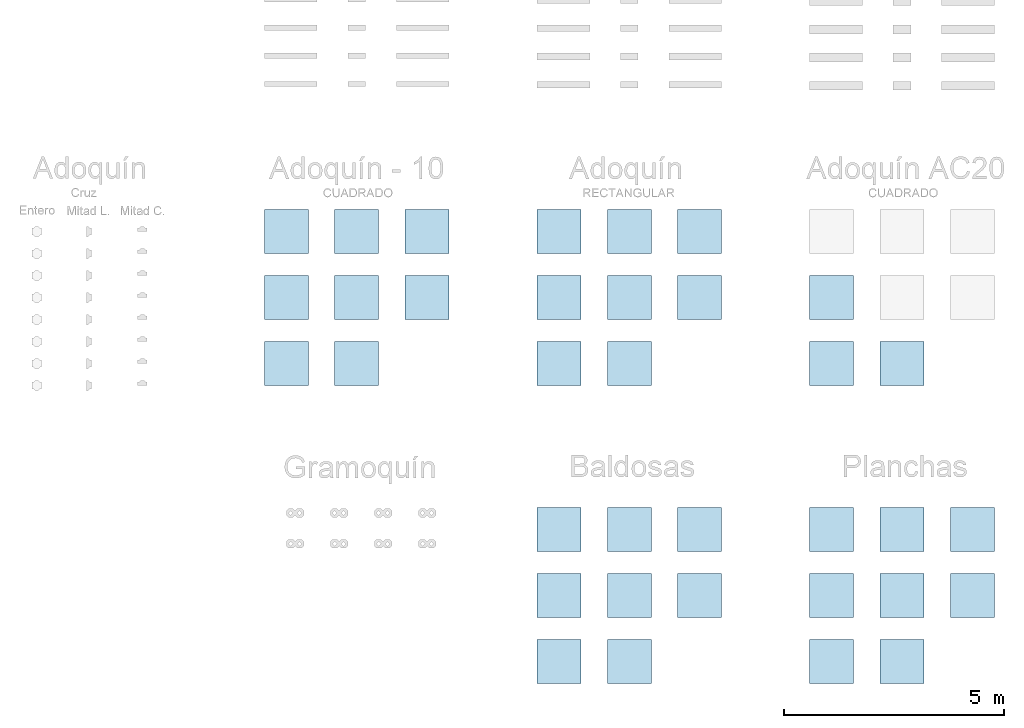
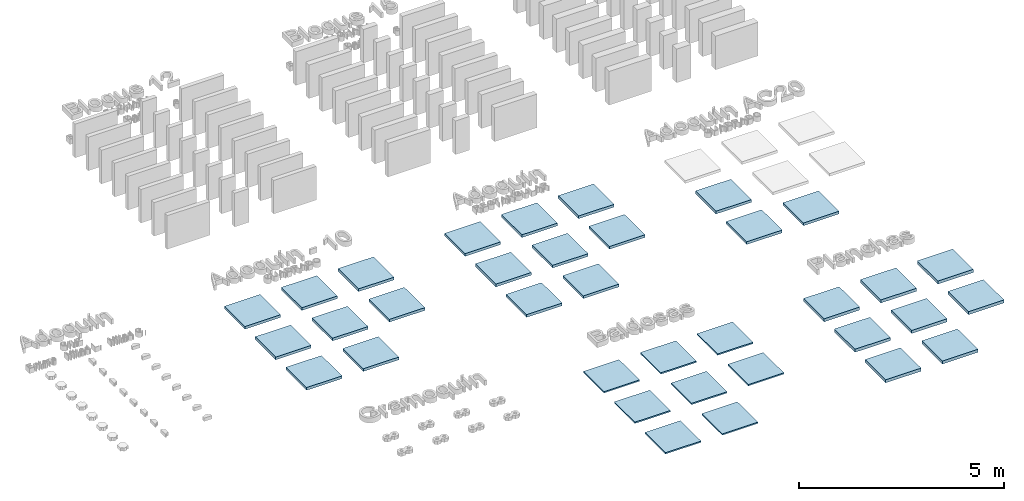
# One storey, part 1 of 19: 35 slabs.
"""IFC2X3 building model written with IfcOpenShell, lengths in metres."""

from ifc_helpers import new_model, entity, si_unit, converted_unit, derived_unit, direction, frame, frame_2d, origin, place, context, subcontext, project, spatial, rectangle, extrude, material, layer, layer_set, layer_usage, type_object, element, save


model = new_model("IFC2X3")

# Units and contexts
model_context = context("Model", 3, precision=1e-05, world=origin(), true_north=direction((6.12303176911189e-17, 1.0)))
body_context = subcontext(model_context, "Body", "Model", "MODEL_VIEW")
ifc_project = project(units=[si_unit("LENGTHUNIT", "METRE"), si_unit("AREAUNIT", "SQUARE_METRE"), si_unit("VOLUMEUNIT", "CUBIC_METRE"), converted_unit("PLANEANGLEUNIT", "DEGREE", entity("IfcRatioMeasure", 0.0174532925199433), si_unit("PLANEANGLEUNIT", "RADIAN"), dimensions=[0, 0, 0, 0, 0, 0, 0]), si_unit("MASSUNIT", "GRAM", prefix="KILO"), derived_unit("MASSDENSITYUNIT", [(si_unit("MASSUNIT", "GRAM", prefix="KILO"), 1), (si_unit("LENGTHUNIT", "METRE"), -3)]), derived_unit("MOMENTOFINERTIAUNIT", [(si_unit("LENGTHUNIT", "METRE"), 4)]), si_unit("TIMEUNIT", "SECOND"), si_unit("FREQUENCYUNIT", "HERTZ"), si_unit("THERMODYNAMICTEMPERATUREUNIT", "DEGREE_CELSIUS"), derived_unit("THERMALTRANSMITTANCEUNIT", [(si_unit("MASSUNIT", "GRAM", prefix="KILO"), 1), (si_unit("THERMODYNAMICTEMPERATUREUNIT", "KELVIN"), -1), (si_unit("TIMEUNIT", "SECOND"), -3)]), derived_unit("VOLUMETRICFLOWRATEUNIT", [(si_unit("LENGTHUNIT", "METRE"), 3), (si_unit("TIMEUNIT", "SECOND"), -1)]), si_unit("ELECTRICCURRENTUNIT", "AMPERE"), si_unit("ELECTRICVOLTAGEUNIT", "VOLT"), si_unit("POWERUNIT", "WATT"), si_unit("FORCEUNIT", "NEWTON", prefix="KILO"), si_unit("ILLUMINANCEUNIT", "LUX"), si_unit("LUMINOUSFLUXUNIT", "LUMEN"), si_unit("LUMINOUSINTENSITYUNIT", "CANDELA"), derived_unit("USERDEFINED", [(si_unit("MASSUNIT", "GRAM", prefix="KILO"), -1), (si_unit("LENGTHUNIT", "METRE"), -2), (si_unit("TIMEUNIT", "SECOND"), 3), (si_unit("LUMINOUSFLUXUNIT", "LUMEN"), 1)]), derived_unit("LINEARVELOCITYUNIT", [(si_unit("LENGTHUNIT", "METRE"), 1), (si_unit("TIMEUNIT", "SECOND"), -1)]), si_unit("PRESSUREUNIT", "PASCAL"), derived_unit("USERDEFINED", [(si_unit("LENGTHUNIT", "METRE"), -2), (si_unit("MASSUNIT", "GRAM", prefix="KILO"), 1), (si_unit("TIMEUNIT", "SECOND"), -2)]), derived_unit("LINEARFORCEUNIT", [(si_unit("MASSUNIT", "GRAM", prefix="KILO"), 1), (si_unit("LENGTHUNIT", "METRE"), 1), (si_unit("TIMEUNIT", "SECOND"), -2), (si_unit("LENGTHUNIT", "METRE"), -1)]), derived_unit("PLANARFORCEUNIT", [(si_unit("MASSUNIT", "GRAM", prefix="KILO"), 1), (si_unit("LENGTHUNIT", "METRE"), 1), (si_unit("TIMEUNIT", "SECOND"), -2), (si_unit("LENGTHUNIT", "METRE"), -2)])], contexts=[model_context])

# Site, building, storey
site_placement = place(None, origin())
site = spatial("IfcSite", under=ifc_project, at=site_placement, Name="Default", CompositionType="ELEMENT")
building_placement = place(site_placement, origin())
building = spatial("IfcBuilding", under=site, at=building_placement, CompositionType="ELEMENT")
storey_placement = place(building_placement, origin())
storey = spatial("IfcBuildingStorey", under=building, at=storey_placement, Name="Nivel 1", CompositionType="ELEMENT", Elevation=0.0)

# Slabs
ifc_material_1 = material(Name="Adoquín (10) - Natural")
ifc_layer_1 = layer(ifc_material_1, 0.08)
ifc_layer_set_1 = layer_set([ifc_layer_1], Name="Suelo:Adoquín 10 - Natural")
ifc_layer_usage_1 = layer_usage(ifc_layer_set_1, "AXIS3", "POSITIVE", 0.0)
slab_type_1 = type_object("IfcSlabType", Name="Suelo:Adoquín 10 - Natural", PredefinedType="FLOOR", material=ifc_layer_set_1)
slab_1_placement = place(storey_placement, origin())
element("IfcSlab", 1, at=slab_1_placement, inside=storey, type_object=slab_type_1, material=ifc_layer_usage_1, Name="Suelo:Adoquín 10 - Natural", ObjectType="Suelo:Adoquín 10 - Natural", PredefinedType="FLOOR", context=body_context, shape_type="SweptSolid", body=[
    extrude(rectangle(XDim=1.0, YDim=1.00000000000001, at=frame_2d((5.55111512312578e-16, -2.16493489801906e-15), x_axis=(1.0, 0.0))), frame((-4.94851232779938, 1.71404309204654, 0.0), z_axis=(0.0, 0.0, -1.0), x_axis=(0.0, 1.0, 0.0)), (0.0, 0.0, 1.0), 0.08),
])
ifc_material_2 = material(Name="Adoquín (10) - Rojo")
ifc_layer_2 = layer(ifc_material_2, 0.08)
ifc_layer_set_2 = layer_set([ifc_layer_2], Name="Suelo:Adoquín 10 - Rojo")
ifc_layer_usage_2 = layer_usage(ifc_layer_set_2, "AXIS3", "POSITIVE", 0.0)
slab_type_2 = type_object("IfcSlabType", Name="Suelo:Adoquín 10 - Rojo", PredefinedType="FLOOR", material=ifc_layer_set_2)
slab_2_placement = place(storey_placement, origin())
element("IfcSlab", 2, at=slab_2_placement, inside=storey, type_object=slab_type_2, material=ifc_layer_usage_2, Name="Suelo:Adoquín 10 - Rojo", ObjectType="Suelo:Adoquín 10 - Rojo", PredefinedType="FLOOR", context=body_context, shape_type="SweptSolid", body=[
    extrude(rectangle(XDim=0.999999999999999, YDim=1.00000000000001, at=frame_2d((5.55111512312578e-16, -2.16493489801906e-15), x_axis=(1.0, 0.0))), frame((-1.74851232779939, 1.71404309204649, 0.0), z_axis=(0.0, 0.0, -1.0), x_axis=(0.0, 1.0, 0.0)), (0.0, 0.0, 1.0), 0.08),
])
ifc_material_3 = material(Name="Adoquín (10) - Rosado")
ifc_layer_3 = layer(ifc_material_3, 0.08)
ifc_layer_set_3 = layer_set([ifc_layer_3], Name="Suelo:Adoquín 10 - Rosado")
ifc_layer_usage_3 = layer_usage(ifc_layer_set_3, "AXIS3", "POSITIVE", 0.0)
slab_type_3 = type_object("IfcSlabType", Name="Suelo:Adoquín 10 - Rosado", PredefinedType="FLOOR", material=ifc_layer_set_3)
slab_3_placement = place(storey_placement, origin())
element("IfcSlab", 3, at=slab_3_placement, inside=storey, type_object=slab_type_3, material=ifc_layer_usage_3, Name="Suelo:Adoquín 10 - Rosado", ObjectType="Suelo:Adoquín 10 - Rosado", PredefinedType="FLOOR", context=body_context, shape_type="SweptSolid", body=[
    extrude(rectangle(XDim=0.999999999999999, YDim=1.00000000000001, at=frame_2d((5.55111512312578e-16, -2.16493489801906e-15), x_axis=(1.0, 0.0))), frame((-3.3485123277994, 1.71404309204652, 0.0), z_axis=(0.0, 0.0, -1.0), x_axis=(0.0, 1.0, 0.0)), (0.0, 0.0, 1.0), 0.08),
])
ifc_material_4 = material(Name="Adoquín (10) - Adobe")
ifc_layer_4 = layer(ifc_material_4, 0.08)
ifc_layer_set_4 = layer_set([ifc_layer_4], Name="Suelo:Adoquín 10 - Adobe")
ifc_layer_usage_4 = layer_usage(ifc_layer_set_4, "AXIS3", "POSITIVE", 0.0)
slab_type_4 = type_object("IfcSlabType", Name="Suelo:Adoquín 10 - Adobe", PredefinedType="FLOOR", material=ifc_layer_set_4)
slab_4_placement = place(storey_placement, origin())
element("IfcSlab", 4, at=slab_4_placement, inside=storey, type_object=slab_type_4, material=ifc_layer_usage_4, Name="Suelo:Adoquín 10 - Adobe", ObjectType="Suelo:Adoquín 10 - Adobe", PredefinedType="FLOOR", context=body_context, shape_type="SweptSolid", body=[
    extrude(rectangle(XDim=1.0, YDim=1.00000000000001, at=frame_2d((5.55111512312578e-16, -2.16493489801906e-15), x_axis=(1.0, 0.0))), frame((-4.9485123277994, 0.214043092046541, 0.0), z_axis=(0.0, 0.0, -1.0), x_axis=(0.0, 1.0, 0.0)), (0.0, 0.0, 1.0), 0.08),
])
ifc_material_5 = material(Name="Adoquín (10) - Gris")
ifc_layer_5 = layer(ifc_material_5, 0.08)
ifc_layer_set_5 = layer_set([ifc_layer_5], Name="Suelo:Adoquín 10 - Gris")
ifc_layer_usage_5 = layer_usage(ifc_layer_set_5, "AXIS3", "POSITIVE", 0.0)
slab_type_5 = type_object("IfcSlabType", Name="Suelo:Adoquín 10 - Gris", PredefinedType="FLOOR", material=ifc_layer_set_5)
slab_5_placement = place(storey_placement, origin())
element("IfcSlab", 5, at=slab_5_placement, inside=storey, type_object=slab_type_5, material=ifc_layer_usage_5, Name="Suelo:Adoquín 10 - Gris", ObjectType="Suelo:Adoquín 10 - Gris", PredefinedType="FLOOR", context=body_context, shape_type="SweptSolid", body=[
    extrude(rectangle(XDim=0.999999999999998, YDim=1.00000000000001, at=frame_2d((5.55111512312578e-16, -2.16493489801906e-15), x_axis=(1.0, 0.0))), frame((-1.74851232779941, 0.21404309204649, 0.0), z_axis=(0.0, 0.0, -1.0), x_axis=(0.0, 1.0, 0.0)), (0.0, 0.0, 1.0), 0.08),
])
ifc_material_6 = material(Name="Adoquín (10) - Amarillo")
ifc_layer_6 = layer(ifc_material_6, 0.08)
ifc_layer_set_6 = layer_set([ifc_layer_6], Name="Suelo:Adoquín 10 - Amarillo")
ifc_layer_usage_6 = layer_usage(ifc_layer_set_6, "AXIS3", "POSITIVE", 0.0)
slab_type_6 = type_object("IfcSlabType", Name="Suelo:Adoquín 10 - Amarillo", PredefinedType="FLOOR", material=ifc_layer_set_6)
slab_6_placement = place(storey_placement, origin())
element("IfcSlab", 6, at=slab_6_placement, inside=storey, type_object=slab_type_6, material=ifc_layer_usage_6, Name="Suelo:Adoquín 10 - Amarillo", ObjectType="Suelo:Adoquín 10 - Amarillo", PredefinedType="FLOOR", context=body_context, shape_type="SweptSolid", body=[
    extrude(rectangle(XDim=0.999999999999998, YDim=1.00000000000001, at=frame_2d((5.55111512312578e-16, -2.16493489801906e-15), x_axis=(1.0, 0.0))), frame((-3.34851232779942, 0.214043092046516, 0.0), z_axis=(0.0, 0.0, -1.0), x_axis=(0.0, 1.0, 0.0)), (0.0, 0.0, 1.0), 0.08),
])
ifc_material_7 = material(Name="Adoquín (10) - Chocolate")
ifc_layer_7 = layer(ifc_material_7, 0.08)
ifc_layer_set_7 = layer_set([ifc_layer_7], Name="Suelo:Adoquín 10 - Chocolate")
ifc_layer_usage_7 = layer_usage(ifc_layer_set_7, "AXIS3", "POSITIVE", 0.0)
slab_type_7 = type_object("IfcSlabType", Name="Suelo:Adoquín 10 - Chocolate", PredefinedType="FLOOR", material=ifc_layer_set_7)
slab_7_placement = place(storey_placement, origin())
element("IfcSlab", 7, at=slab_7_placement, inside=storey, type_object=slab_type_7, material=ifc_layer_usage_7, Name="Suelo:Adoquín 10 - Chocolate", ObjectType="Suelo:Adoquín 10 - Chocolate", PredefinedType="FLOOR", context=body_context, shape_type="SweptSolid", body=[
    extrude(rectangle(XDim=1.0, YDim=1.00000000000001, at=frame_2d((5.55111512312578e-16, -2.16493489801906e-15), x_axis=(1.0, 0.0))), frame((-4.94851232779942, -1.28595690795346, 0.0), z_axis=(0.0, 0.0, -1.0), x_axis=(0.0, 1.0, 0.0)), (0.0, 0.0, 1.0), 0.08),
])
ifc_material_8 = material(Name="Adoquín (10) - Negro")
ifc_layer_8 = layer(ifc_material_8, 0.08)
ifc_layer_set_8 = layer_set([ifc_layer_8], Name="Suelo:Adoquín 10 - Negro")
ifc_layer_usage_8 = layer_usage(ifc_layer_set_8, "AXIS3", "POSITIVE", 0.0)
slab_type_8 = type_object("IfcSlabType", Name="Suelo:Adoquín 10 - Negro", PredefinedType="FLOOR", material=ifc_layer_set_8)
slab_8_placement = place(storey_placement, origin())
element("IfcSlab", 8, at=slab_8_placement, inside=storey, type_object=slab_type_8, material=ifc_layer_usage_8, Name="Suelo:Adoquín 10 - Negro", ObjectType="Suelo:Adoquín 10 - Negro", PredefinedType="FLOOR", context=body_context, shape_type="SweptSolid", body=[
    extrude(rectangle(XDim=0.999999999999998, YDim=1.00000000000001, at=frame_2d((5.55111512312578e-16, -2.16493489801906e-15), x_axis=(1.0, 0.0))), frame((-3.34851232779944, -1.28595690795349, 0.0), z_axis=(0.0, 0.0, -1.0), x_axis=(0.0, 1.0, 0.0)), (0.0, 0.0, 1.0), 0.08),
])
ifc_material_9 = material(Name="Adoquín (Rectangular) - Natural")
ifc_layer_9 = layer(ifc_material_9, 0.08)
ifc_layer_set_9 = layer_set([ifc_layer_9], Name="Suelo:Adoquín (Rectangular) - Natural")
ifc_layer_usage_9 = layer_usage(ifc_layer_set_9, "AXIS3", "POSITIVE", 0.0)
slab_type_9 = type_object("IfcSlabType", Name="Suelo:Adoquín (Rectangular) - Natural", PredefinedType="FLOOR", material=ifc_layer_set_9)
slab_9_placement = place(storey_placement, origin())
element("IfcSlab", 9, at=slab_9_placement, inside=storey, type_object=slab_type_9, material=ifc_layer_usage_9, Name="Suelo:Adoquín (Rectangular) - Natural", ObjectType="Suelo:Adoquín (Rectangular) - Natural", PredefinedType="FLOOR", context=body_context, shape_type="SweptSolid", body=[
    extrude(rectangle(XDim=1.0, YDim=1.00000000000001, at=frame_2d((5.55111512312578e-16, -2.16493489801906e-15), x_axis=(1.0, 0.0))), frame((1.25148767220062, 1.71404309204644, 0.0), z_axis=(0.0, 0.0, -1.0), x_axis=(0.0, 1.0, 0.0)), (0.0, 0.0, 1.0), 0.08),
])
ifc_material_10 = material(Name="Adoquín (Rectangular) - Rosado")
ifc_layer_10 = layer(ifc_material_10, 0.08)
ifc_layer_set_10 = layer_set([ifc_layer_10], Name="Suelo:Adoquín (Rectangular) - Rosado")
ifc_layer_usage_10 = layer_usage(ifc_layer_set_10, "AXIS3", "POSITIVE", 0.0)
slab_type_10 = type_object("IfcSlabType", Name="Suelo:Adoquín (Rectangular) - Rosado", PredefinedType="FLOOR", material=ifc_layer_set_10)
slab_10_placement = place(storey_placement, origin())
element("IfcSlab", 10, at=slab_10_placement, inside=storey, type_object=slab_type_10, material=ifc_layer_usage_10, Name="Suelo:Adoquín (Rectangular) - Rosado", ObjectType="Suelo:Adoquín (Rectangular) - Rosado", PredefinedType="FLOOR", context=body_context, shape_type="SweptSolid", body=[
    extrude(rectangle(XDim=1.0, YDim=1.00000000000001, at=frame_2d((5.55111512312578e-16, -2.16493489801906e-15), x_axis=(1.0, 0.0))), frame((2.8514876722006, 1.71404309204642, 0.0), z_axis=(0.0, 0.0, -1.0), x_axis=(0.0, 1.0, 0.0)), (0.0, 0.0, 1.0), 0.08),
])
ifc_material_11 = material(Name="Adoquín (Rectangular) - Rojo")
ifc_layer_11 = layer(ifc_material_11, 0.08)
ifc_layer_set_11 = layer_set([ifc_layer_11], Name="Suelo:Adoquín (Rectangular) - Rojo")
ifc_layer_usage_11 = layer_usage(ifc_layer_set_11, "AXIS3", "POSITIVE", 0.0)
slab_type_11 = type_object("IfcSlabType", Name="Suelo:Adoquín (Rectangular) - Rojo", PredefinedType="FLOOR", material=ifc_layer_set_11)
slab_11_placement = place(storey_placement, origin())
element("IfcSlab", 11, at=slab_11_placement, inside=storey, type_object=slab_type_11, material=ifc_layer_usage_11, Name="Suelo:Adoquín (Rectangular) - Rojo", ObjectType="Suelo:Adoquín (Rectangular) - Rojo", PredefinedType="FLOOR", context=body_context, shape_type="SweptSolid", body=[
    extrude(rectangle(XDim=1.0, YDim=1.00000000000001, at=frame_2d((5.55111512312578e-16, -2.16493489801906e-15), x_axis=(1.0, 0.0))), frame((4.45148767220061, 1.71404309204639, 0.0), z_axis=(0.0, 0.0, -1.0), x_axis=(0.0, 1.0, 0.0)), (0.0, 0.0, 1.0), 0.08),
])
ifc_material_12 = material(Name="Adoquín (Rectangular) - Adobe")
ifc_layer_12 = layer(ifc_material_12, 0.08)
ifc_layer_set_12 = layer_set([ifc_layer_12], Name="Suelo:Adoquín (Rectangular) - Adobe")
ifc_layer_usage_12 = layer_usage(ifc_layer_set_12, "AXIS3", "POSITIVE", 0.0)
slab_type_12 = type_object("IfcSlabType", Name="Suelo:Adoquín (Rectangular) - Adobe", PredefinedType="FLOOR", material=ifc_layer_set_12)
slab_12_placement = place(storey_placement, origin())
element("IfcSlab", 12, at=slab_12_placement, inside=storey, type_object=slab_type_12, material=ifc_layer_usage_12, Name="Suelo:Adoquín (Rectangular) - Adobe", ObjectType="Suelo:Adoquín (Rectangular) - Adobe", PredefinedType="FLOOR", context=body_context, shape_type="SweptSolid", body=[
    extrude(rectangle(XDim=1.0, YDim=1.00000000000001, at=frame_2d((5.55111512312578e-16, -2.16493489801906e-15), x_axis=(1.0, 0.0))), frame((1.2514876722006, 0.214043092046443, 0.0), z_axis=(0.0, 0.0, -1.0), x_axis=(0.0, 1.0, 0.0)), (0.0, 0.0, 1.0), 0.08),
])
ifc_material_13 = material(Name="Adoquín (Rectangular) - Amarillo")
ifc_layer_13 = layer(ifc_material_13, 0.08)
ifc_layer_set_13 = layer_set([ifc_layer_13], Name="Suelo:Adoquín (Rectangular) - Amarillo")
ifc_layer_usage_13 = layer_usage(ifc_layer_set_13, "AXIS3", "POSITIVE", 0.0)
slab_type_13 = type_object("IfcSlabType", Name="Suelo:Adoquín (Rectangular) - Amarillo", PredefinedType="FLOOR", material=ifc_layer_set_13)
slab_13_placement = place(storey_placement, origin())
element("IfcSlab", 13, at=slab_13_placement, inside=storey, type_object=slab_type_13, material=ifc_layer_usage_13, Name="Suelo:Adoquín (Rectangular) - Amarillo", ObjectType="Suelo:Adoquín (Rectangular) - Amarillo", PredefinedType="FLOOR", context=body_context, shape_type="SweptSolid", body=[
    extrude(rectangle(XDim=1.0, YDim=1.00000000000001, at=frame_2d((5.55111512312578e-16, -2.16493489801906e-15), x_axis=(1.0, 0.0))), frame((2.85148767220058, 0.214043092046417, 0.0), z_axis=(0.0, 0.0, -1.0), x_axis=(0.0, 1.0, 0.0)), (0.0, 0.0, 1.0), 0.08),
])
ifc_material_14 = material(Name="Adoquín (Rectangular) - Gris")
ifc_layer_14 = layer(ifc_material_14, 0.08)
ifc_layer_set_14 = layer_set([ifc_layer_14], Name="Suelo:Adoquín (Rectangular) - Gris")
ifc_layer_usage_14 = layer_usage(ifc_layer_set_14, "AXIS3", "POSITIVE", 0.0)
slab_type_14 = type_object("IfcSlabType", Name="Suelo:Adoquín (Rectangular) - Gris", PredefinedType="FLOOR", material=ifc_layer_set_14)
slab_14_placement = place(storey_placement, origin())
element("IfcSlab", 14, at=slab_14_placement, inside=storey, type_object=slab_type_14, material=ifc_layer_usage_14, Name="Suelo:Adoquín (Rectangular) - Gris", ObjectType="Suelo:Adoquín (Rectangular) - Gris", PredefinedType="FLOOR", context=body_context, shape_type="SweptSolid", body=[
    extrude(rectangle(XDim=1.0, YDim=1.00000000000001, at=frame_2d((5.55111512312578e-16, -2.16493489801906e-15), x_axis=(1.0, 0.0))), frame((4.45148767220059, 0.214043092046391, 0.0), z_axis=(0.0, 0.0, -1.0), x_axis=(0.0, 1.0, 0.0)), (0.0, 0.0, 1.0), 0.08),
])
ifc_material_15 = material(Name="Adoquín (Rectangular) - Chocolate")
ifc_layer_15 = layer(ifc_material_15, 0.08)
ifc_layer_set_15 = layer_set([ifc_layer_15], Name="Suelo:Adoquín (Rectangular) - Chocolate")
ifc_layer_usage_15 = layer_usage(ifc_layer_set_15, "AXIS3", "POSITIVE", 0.0)
slab_type_15 = type_object("IfcSlabType", Name="Suelo:Adoquín (Rectangular) - Chocolate", PredefinedType="FLOOR", material=ifc_layer_set_15)
slab_15_placement = place(storey_placement, origin())
element("IfcSlab", 15, at=slab_15_placement, inside=storey, type_object=slab_type_15, material=ifc_layer_usage_15, Name="Suelo:Adoquín (Rectangular) - Chocolate", ObjectType="Suelo:Adoquín (Rectangular) - Chocolate", PredefinedType="FLOOR", context=body_context, shape_type="SweptSolid", body=[
    extrude(rectangle(XDim=1.0, YDim=1.00000000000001, at=frame_2d((5.55111512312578e-16, -2.16493489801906e-15), x_axis=(1.0, 0.0))), frame((1.25148767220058, -1.28595690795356, 0.0), z_axis=(0.0, 0.0, -1.0), x_axis=(0.0, 1.0, 0.0)), (0.0, 0.0, 1.0), 0.08),
])
ifc_material_16 = material(Name="Adoquín (Rectangular) - Negro")
ifc_layer_16 = layer(ifc_material_16, 0.08)
ifc_layer_set_16 = layer_set([ifc_layer_16], Name="Suelo:Adoquín (Rectangular) - Negro")
ifc_layer_usage_16 = layer_usage(ifc_layer_set_16, "AXIS3", "POSITIVE", 0.0)
slab_type_16 = type_object("IfcSlabType", Name="Suelo:Adoquín (Rectangular) - Negro", PredefinedType="FLOOR", material=ifc_layer_set_16)
slab_16_placement = place(storey_placement, origin())
element("IfcSlab", 16, at=slab_16_placement, inside=storey, type_object=slab_type_16, material=ifc_layer_usage_16, Name="Suelo:Adoquín (Rectangular) - Negro", ObjectType="Suelo:Adoquín (Rectangular) - Negro", PredefinedType="FLOOR", context=body_context, shape_type="SweptSolid", body=[
    extrude(rectangle(XDim=1.0, YDim=1.00000000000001, at=frame_2d((5.55111512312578e-16, -2.16493489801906e-15), x_axis=(1.0, 0.0))), frame((2.85148767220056, -1.28595690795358, 0.0), z_axis=(0.0, 0.0, -1.0), x_axis=(0.0, 1.0, 0.0)), (0.0, 0.0, 1.0), 0.08),
])
ifc_material_17 = material(Name="Adoquín AC20 - Adobe")
ifc_layer_17 = layer(ifc_material_17, 0.08)
ifc_layer_set_17 = layer_set([ifc_layer_17], Name="Suelo:Adoquín AC20 - Adobe")
ifc_layer_usage_17 = layer_usage(ifc_layer_set_17, "AXIS3", "POSITIVE", 0.0)
slab_type_17 = type_object("IfcSlabType", Name="Suelo:Adoquín AC20 - Adobe", PredefinedType="FLOOR", material=ifc_layer_set_17)
slab_17_placement = place(storey_placement, origin())
element("IfcSlab", 17, at=slab_17_placement, inside=storey, type_object=slab_type_17, material=ifc_layer_usage_17, Name="Suelo:Adoquín AC20 - Adobe", ObjectType="Suelo:Adoquín AC20 - Adobe", PredefinedType="FLOOR", context=body_context, shape_type="SweptSolid", body=[
    extrude(rectangle(XDim=1.0, YDim=1.00000000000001, at=frame_2d((5.55111512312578e-16, -2.16493489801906e-15), x_axis=(1.0, 0.0))), frame((7.4514876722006, 0.214043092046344, 0.0), z_axis=(0.0, 0.0, -1.0), x_axis=(0.0, 1.0, 0.0)), (0.0, 0.0, 1.0), 0.08),
])
ifc_material_18 = material(Name="Adoquín AC20 - Chocolate")
ifc_layer_18 = layer(ifc_material_18, 0.08)
ifc_layer_set_18 = layer_set([ifc_layer_18], Name="Suelo:Adoquín AC20 - Chocolate")
ifc_layer_usage_18 = layer_usage(ifc_layer_set_18, "AXIS3", "POSITIVE", 0.0)
slab_type_18 = type_object("IfcSlabType", Name="Suelo:Adoquín AC20 - Chocolate", PredefinedType="FLOOR", material=ifc_layer_set_18)
slab_18_placement = place(storey_placement, origin())
element("IfcSlab", 18, at=slab_18_placement, inside=storey, type_object=slab_type_18, material=ifc_layer_usage_18, Name="Suelo:Adoquín AC20 - Chocolate", ObjectType="Suelo:Adoquín AC20 - Chocolate", PredefinedType="FLOOR", context=body_context, shape_type="SweptSolid", body=[
    extrude(rectangle(XDim=1.0, YDim=1.00000000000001, at=frame_2d((5.55111512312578e-16, -2.16493489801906e-15), x_axis=(1.0, 0.0))), frame((7.45148767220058, -1.28595690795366, 0.0), z_axis=(0.0, 0.0, -1.0), x_axis=(0.0, 1.0, 0.0)), (0.0, 0.0, 1.0), 0.08),
])
ifc_material_19 = material(Name="Adoquín AC20 - Negro")
ifc_layer_19 = layer(ifc_material_19, 0.08)
ifc_layer_set_19 = layer_set([ifc_layer_19], Name="Suelo:Adoquín AC20 - Negro")
ifc_layer_usage_19 = layer_usage(ifc_layer_set_19, "AXIS3", "POSITIVE", 0.0)
slab_type_19 = type_object("IfcSlabType", Name="Suelo:Adoquín AC20 - Negro", PredefinedType="FLOOR", material=ifc_layer_set_19)
slab_19_placement = place(storey_placement, origin())
element("IfcSlab", 19, at=slab_19_placement, inside=storey, type_object=slab_type_19, material=ifc_layer_usage_19, Name="Suelo:Adoquín AC20 - Negro", ObjectType="Suelo:Adoquín AC20 - Negro", PredefinedType="FLOOR", context=body_context, shape_type="SweptSolid", body=[
    extrude(rectangle(XDim=0.999999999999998, YDim=1.00000000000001, at=frame_2d((5.55111512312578e-16, -2.16493489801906e-15), x_axis=(1.0, 0.0))), frame((9.05148767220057, -1.28595690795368, 0.0), z_axis=(0.0, 0.0, -1.0), x_axis=(0.0, 1.0, 0.0)), (0.0, 0.0, 1.0), 0.08),
])
ifc_material_20 = material(Name="Baldosas - Natural")
ifc_layer_20 = layer(ifc_material_20, 0.04)
ifc_layer_set_20 = layer_set([ifc_layer_20], Name="Suelo:Baldosas - Natural")
ifc_layer_usage_20 = layer_usage(ifc_layer_set_20, "AXIS3", "POSITIVE", 0.0)
slab_type_20 = type_object("IfcSlabType", Name="Suelo:Baldosas - Natural", PredefinedType="FLOOR", material=ifc_layer_set_20)
slab_20_placement = place(storey_placement, origin())
element("IfcSlab", 20, at=slab_20_placement, inside=storey, type_object=slab_type_20, material=ifc_layer_usage_20, Name="Suelo:Baldosas - Natural", ObjectType="Suelo:Baldosas - Natural", PredefinedType="FLOOR", context=body_context, shape_type="SweptSolid", body=[
    extrude(rectangle(XDim=0.999999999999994, YDim=1.00000000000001, at=frame_2d((1.11022302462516e-15, -2.16493489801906e-15), x_axis=(1.0, 0.0))), frame((1.25148767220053, -5.06382993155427, 0.0), z_axis=(0.0, 0.0, -1.0), x_axis=(0.0, 1.0, 0.0)), (0.0, 0.0, 1.0), 0.04),
])
ifc_material_21 = material(Name="Baldosas - Rosado")
ifc_layer_21 = layer(ifc_material_21, 0.04)
ifc_layer_set_21 = layer_set([ifc_layer_21], Name="Suelo:Baldosas - Rosado")
ifc_layer_usage_21 = layer_usage(ifc_layer_set_21, "AXIS3", "POSITIVE", 0.0)
slab_type_21 = type_object("IfcSlabType", Name="Suelo:Baldosas - Rosado", PredefinedType="FLOOR", material=ifc_layer_set_21)
slab_21_placement = place(storey_placement, origin())
element("IfcSlab", 21, at=slab_21_placement, inside=storey, type_object=slab_type_21, material=ifc_layer_usage_21, Name="Suelo:Baldosas - Rosado", ObjectType="Suelo:Baldosas - Rosado", PredefinedType="FLOOR", context=body_context, shape_type="SweptSolid", body=[
    extrude(rectangle(XDim=0.999999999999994, YDim=1.00000000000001, at=frame_2d((1.11022302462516e-15, -2.16493489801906e-15), x_axis=(1.0, 0.0))), frame((2.85148767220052, -5.0638299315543, 0.0), z_axis=(0.0, 0.0, -1.0), x_axis=(0.0, 1.0, 0.0)), (0.0, 0.0, 1.0), 0.04),
])
ifc_material_22 = material(Name="Baldosas - Rojo")
ifc_layer_22 = layer(ifc_material_22, 0.04)
ifc_layer_set_22 = layer_set([ifc_layer_22], Name="Suelo:Baldosas - Rojo")
ifc_layer_usage_22 = layer_usage(ifc_layer_set_22, "AXIS3", "POSITIVE", 0.0)
slab_type_22 = type_object("IfcSlabType", Name="Suelo:Baldosas - Rojo", PredefinedType="FLOOR", material=ifc_layer_set_22)
slab_22_placement = place(storey_placement, origin())
element("IfcSlab", 22, at=slab_22_placement, inside=storey, type_object=slab_type_22, material=ifc_layer_usage_22, Name="Suelo:Baldosas - Rojo", ObjectType="Suelo:Baldosas - Rojo", PredefinedType="FLOOR", context=body_context, shape_type="SweptSolid", body=[
    extrude(rectangle(XDim=0.999999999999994, YDim=1.00000000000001, at=frame_2d((1.11022302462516e-15, -2.16493489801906e-15), x_axis=(1.0, 0.0))), frame((4.45148767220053, -5.06382993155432, 0.0), z_axis=(0.0, 0.0, -1.0), x_axis=(0.0, 1.0, 0.0)), (0.0, 0.0, 1.0), 0.04),
])
ifc_material_23 = material(Name="Baldosas - Adobe")
ifc_layer_23 = layer(ifc_material_23, 0.04)
ifc_layer_set_23 = layer_set([ifc_layer_23], Name="Suelo:Baldosas - Adobe")
ifc_layer_usage_23 = layer_usage(ifc_layer_set_23, "AXIS3", "POSITIVE", 0.0)
slab_type_23 = type_object("IfcSlabType", Name="Suelo:Baldosas - Adobe", PredefinedType="FLOOR", material=ifc_layer_set_23)
slab_23_placement = place(storey_placement, origin())
element("IfcSlab", 23, at=slab_23_placement, inside=storey, type_object=slab_type_23, material=ifc_layer_usage_23, Name="Suelo:Baldosas - Adobe", ObjectType="Suelo:Baldosas - Adobe", PredefinedType="FLOOR", context=body_context, shape_type="SweptSolid", body=[
    extrude(rectangle(XDim=0.999999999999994, YDim=1.00000000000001, at=frame_2d((1.11022302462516e-15, -2.16493489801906e-15), x_axis=(1.0, 0.0))), frame((1.25148767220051, -6.56382993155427, 0.0), z_axis=(0.0, 0.0, -1.0), x_axis=(0.0, 1.0, 0.0)), (0.0, 0.0, 1.0), 0.04),
])
ifc_material_24 = material(Name="Baldosas - Amarillo")
ifc_layer_24 = layer(ifc_material_24, 0.04)
ifc_layer_set_24 = layer_set([ifc_layer_24], Name="Suelo:Baldosas - Amarillo")
ifc_layer_usage_24 = layer_usage(ifc_layer_set_24, "AXIS3", "POSITIVE", 0.0)
slab_type_24 = type_object("IfcSlabType", Name="Suelo:Baldosas - Amarillo", PredefinedType="FLOOR", material=ifc_layer_set_24)
slab_24_placement = place(storey_placement, origin())
element("IfcSlab", 24, at=slab_24_placement, inside=storey, type_object=slab_type_24, material=ifc_layer_usage_24, Name="Suelo:Baldosas - Amarillo", ObjectType="Suelo:Baldosas - Amarillo", PredefinedType="FLOOR", context=body_context, shape_type="SweptSolid", body=[
    extrude(rectangle(XDim=0.999999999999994, YDim=1.00000000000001, at=frame_2d((1.11022302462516e-15, -2.16493489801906e-15), x_axis=(1.0, 0.0))), frame((2.85148767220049, -6.5638299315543, 0.0), z_axis=(0.0, 0.0, -1.0), x_axis=(0.0, 1.0, 0.0)), (0.0, 0.0, 1.0), 0.04),
])
ifc_material_25 = material(Name="Baldosas - Gris")
ifc_layer_25 = layer(ifc_material_25, 0.04)
ifc_layer_set_25 = layer_set([ifc_layer_25], Name="Suelo:Baldosas - Gris")
ifc_layer_usage_25 = layer_usage(ifc_layer_set_25, "AXIS3", "POSITIVE", 0.0)
slab_type_25 = type_object("IfcSlabType", Name="Suelo:Baldosas - Gris", PredefinedType="FLOOR", material=ifc_layer_set_25)
slab_25_placement = place(storey_placement, origin())
element("IfcSlab", 25, at=slab_25_placement, inside=storey, type_object=slab_type_25, material=ifc_layer_usage_25, Name="Suelo:Baldosas - Gris", ObjectType="Suelo:Baldosas - Gris", PredefinedType="FLOOR", context=body_context, shape_type="SweptSolid", body=[
    extrude(rectangle(XDim=0.999999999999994, YDim=1.00000000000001, at=frame_2d((1.11022302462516e-15, -2.16493489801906e-15), x_axis=(1.0, 0.0))), frame((4.45148767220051, -6.56382993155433, 0.0), z_axis=(0.0, 0.0, -1.0), x_axis=(0.0, 1.0, 0.0)), (0.0, 0.0, 1.0), 0.04),
])
ifc_material_26 = material(Name="Baldosas - Chocolate")
ifc_layer_26 = layer(ifc_material_26, 0.04)
ifc_layer_set_26 = layer_set([ifc_layer_26], Name="Suelo:Baldosas - Chocolate")
ifc_layer_usage_26 = layer_usage(ifc_layer_set_26, "AXIS3", "POSITIVE", 0.0)
slab_type_26 = type_object("IfcSlabType", Name="Suelo:Baldosas - Chocolate", PredefinedType="FLOOR", material=ifc_layer_set_26)
slab_26_placement = place(storey_placement, origin())
element("IfcSlab", 26, at=slab_26_placement, inside=storey, type_object=slab_type_26, material=ifc_layer_usage_26, Name="Suelo:Baldosas - Chocolate", ObjectType="Suelo:Baldosas - Chocolate", PredefinedType="FLOOR", context=body_context, shape_type="SweptSolid", body=[
    extrude(rectangle(XDim=0.999999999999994, YDim=1.00000000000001, at=frame_2d((1.11022302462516e-15, -2.16493489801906e-15), x_axis=(1.0, 0.0))), frame((1.25148767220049, -8.06382993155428, 0.0), z_axis=(0.0, 0.0, -1.0), x_axis=(0.0, 1.0, 0.0)), (0.0, 0.0, 1.0), 0.04),
])
ifc_material_27 = material(Name="Baldosas - Negro")
ifc_layer_27 = layer(ifc_material_27, 0.04)
ifc_layer_set_27 = layer_set([ifc_layer_27], Name="Suelo:Baldosas - Negro")
ifc_layer_usage_27 = layer_usage(ifc_layer_set_27, "AXIS3", "POSITIVE", 0.0)
slab_type_27 = type_object("IfcSlabType", Name="Suelo:Baldosas - Negro", PredefinedType="FLOOR", material=ifc_layer_set_27)
slab_27_placement = place(storey_placement, origin())
element("IfcSlab", 27, at=slab_27_placement, inside=storey, type_object=slab_type_27, material=ifc_layer_usage_27, Name="Suelo:Baldosas - Negro", ObjectType="Suelo:Baldosas - Negro", PredefinedType="FLOOR", context=body_context, shape_type="SweptSolid", body=[
    extrude(rectangle(XDim=0.999999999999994, YDim=1.00000000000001, at=frame_2d((1.11022302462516e-15, -2.16493489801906e-15), x_axis=(1.0, 0.0))), frame((2.85148767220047, -8.0638299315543, 0.0), z_axis=(0.0, 0.0, -1.0), x_axis=(0.0, 1.0, 0.0)), (0.0, 0.0, 1.0), 0.04),
])
ifc_material_28 = material(Name="Plancha - Natural")
ifc_layer_28 = layer(ifc_material_28, 0.09)
ifc_layer_set_28 = layer_set([ifc_layer_28], Name="Suelo:Planchas - Natural")
ifc_layer_usage_28 = layer_usage(ifc_layer_set_28, "AXIS3", "POSITIVE", 0.0)
slab_type_28 = type_object("IfcSlabType", Name="Suelo:Planchas - Natural", PredefinedType="FLOOR", material=ifc_layer_set_28)
slab_28_placement = place(storey_placement, origin())
element("IfcSlab", 28, at=slab_28_placement, inside=storey, type_object=slab_type_28, material=ifc_layer_usage_28, Name="Suelo:Planchas - Natural", ObjectType="Suelo:Planchas - Natural", PredefinedType="FLOOR", context=body_context, shape_type="SweptSolid", body=[
    extrude(rectangle(XDim=0.999999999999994, YDim=1.00000000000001, at=frame_2d((1.11022302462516e-15, -2.16493489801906e-15), x_axis=(1.0, 0.0))), frame((7.45148767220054, -5.06382993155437, 0.0), z_axis=(0.0, 0.0, -1.0), x_axis=(0.0, 1.0, 0.0)), (0.0, 0.0, 1.0), 0.09),
])
ifc_material_29 = material(Name="Plancha - Rosado")
ifc_layer_29 = layer(ifc_material_29, 0.09)
ifc_layer_set_29 = layer_set([ifc_layer_29], Name="Suelo:Planchas - Rosado")
ifc_layer_usage_29 = layer_usage(ifc_layer_set_29, "AXIS3", "POSITIVE", 0.0)
slab_type_29 = type_object("IfcSlabType", Name="Suelo:Planchas - Rosado", PredefinedType="FLOOR", material=ifc_layer_set_29)
slab_29_placement = place(storey_placement, origin())
element("IfcSlab", 29, at=slab_29_placement, inside=storey, type_object=slab_type_29, material=ifc_layer_usage_29, Name="Suelo:Planchas - Rosado", ObjectType="Suelo:Planchas - Rosado", PredefinedType="FLOOR", context=body_context, shape_type="SweptSolid", body=[
    extrude(rectangle(XDim=0.999999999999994, YDim=1.00000000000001, at=frame_2d((1.11022302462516e-15, -2.16493489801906e-15), x_axis=(1.0, 0.0))), frame((9.05148767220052, -5.06382993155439, 0.0), z_axis=(0.0, 0.0, -1.0), x_axis=(0.0, 1.0, 0.0)), (0.0, 0.0, 1.0), 0.09),
])
ifc_material_30 = material(Name="Plancha - Rojo")
ifc_layer_30 = layer(ifc_material_30, 0.09)
ifc_layer_set_30 = layer_set([ifc_layer_30], Name="Suelo:Planchas - Rojo")
ifc_layer_usage_30 = layer_usage(ifc_layer_set_30, "AXIS3", "POSITIVE", 0.0)
slab_type_30 = type_object("IfcSlabType", Name="Suelo:Planchas - Rojo", PredefinedType="FLOOR", material=ifc_layer_set_30)
slab_30_placement = place(storey_placement, origin())
element("IfcSlab", 30, at=slab_30_placement, inside=storey, type_object=slab_type_30, material=ifc_layer_usage_30, Name="Suelo:Planchas - Rojo", ObjectType="Suelo:Planchas - Rojo", PredefinedType="FLOOR", context=body_context, shape_type="SweptSolid", body=[
    extrude(rectangle(XDim=0.999999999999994, YDim=1.00000000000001, at=frame_2d((1.11022302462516e-15, -1.11022302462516e-15), x_axis=(1.0, 0.0))), frame((10.6514876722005, -5.06382993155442, 0.0), z_axis=(0.0, 0.0, -1.0), x_axis=(0.0, 1.0, 0.0)), (0.0, 0.0, 1.0), 0.09),
])
ifc_material_31 = material(Name="Plancha - Adobe")
ifc_layer_31 = layer(ifc_material_31, 0.09)
ifc_layer_set_31 = layer_set([ifc_layer_31], Name="Suelo:Planchas - Adobe")
ifc_layer_usage_31 = layer_usage(ifc_layer_set_31, "AXIS3", "POSITIVE", 0.0)
slab_type_31 = type_object("IfcSlabType", Name="Suelo:Planchas - Adobe", PredefinedType="FLOOR", material=ifc_layer_set_31)
slab_31_placement = place(storey_placement, origin())
element("IfcSlab", 31, at=slab_31_placement, inside=storey, type_object=slab_type_31, material=ifc_layer_usage_31, Name="Suelo:Planchas - Adobe", ObjectType="Suelo:Planchas - Adobe", PredefinedType="FLOOR", context=body_context, shape_type="SweptSolid", body=[
    extrude(rectangle(XDim=0.999999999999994, YDim=1.00000000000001, at=frame_2d((1.11022302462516e-15, -2.16493489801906e-15), x_axis=(1.0, 0.0))), frame((7.45148767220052, -6.56382993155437, 0.0), z_axis=(0.0, 0.0, -1.0), x_axis=(0.0, 1.0, 0.0)), (0.0, 0.0, 1.0), 0.09),
])
ifc_material_32 = material(Name="Plancha - Amarillo")
ifc_layer_32 = layer(ifc_material_32, 0.09)
ifc_layer_set_32 = layer_set([ifc_layer_32], Name="Suelo:Planchas - Amarillo")
ifc_layer_usage_32 = layer_usage(ifc_layer_set_32, "AXIS3", "POSITIVE", 0.0)
slab_type_32 = type_object("IfcSlabType", Name="Suelo:Planchas - Amarillo", PredefinedType="FLOOR", material=ifc_layer_set_32)
slab_32_placement = place(storey_placement, origin())
element("IfcSlab", 32, at=slab_32_placement, inside=storey, type_object=slab_type_32, material=ifc_layer_usage_32, Name="Suelo:Planchas - Amarillo", ObjectType="Suelo:Planchas - Amarillo", PredefinedType="FLOOR", context=body_context, shape_type="SweptSolid", body=[
    extrude(rectangle(XDim=0.999999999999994, YDim=1.00000000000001, at=frame_2d((1.11022302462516e-15, -2.16493489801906e-15), x_axis=(1.0, 0.0))), frame((9.0514876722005, -6.5638299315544, 0.0), z_axis=(0.0, 0.0, -1.0), x_axis=(0.0, 1.0, 0.0)), (0.0, 0.0, 1.0), 0.09),
])
ifc_material_33 = material(Name="Plancha - Gris")
ifc_layer_33 = layer(ifc_material_33, 0.09)
ifc_layer_set_33 = layer_set([ifc_layer_33], Name="Suelo:Planchas - Gris")
ifc_layer_usage_33 = layer_usage(ifc_layer_set_33, "AXIS3", "POSITIVE", 0.0)
slab_type_33 = type_object("IfcSlabType", Name="Suelo:Planchas - Gris", PredefinedType="FLOOR", material=ifc_layer_set_33)
slab_33_placement = place(storey_placement, origin())
element("IfcSlab", 33, at=slab_33_placement, inside=storey, type_object=slab_type_33, material=ifc_layer_usage_33, Name="Suelo:Planchas - Gris", ObjectType="Suelo:Planchas - Gris", PredefinedType="FLOOR", context=body_context, shape_type="SweptSolid", body=[
    extrude(rectangle(XDim=0.999999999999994, YDim=1.00000000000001, at=frame_2d((1.11022302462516e-15, -1.11022302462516e-15), x_axis=(1.0, 0.0))), frame((10.6514876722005, -6.56382993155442, 0.0), z_axis=(0.0, 0.0, -1.0), x_axis=(0.0, 1.0, 0.0)), (0.0, 0.0, 1.0), 0.09),
])
ifc_material_34 = material(Name="Plancha - Chocolate")
ifc_layer_34 = layer(ifc_material_34, 0.09)
ifc_layer_set_34 = layer_set([ifc_layer_34], Name="Suelo:Planchas - Chocolate")
ifc_layer_usage_34 = layer_usage(ifc_layer_set_34, "AXIS3", "POSITIVE", 0.0)
slab_type_34 = type_object("IfcSlabType", Name="Suelo:Planchas - Chocolate", PredefinedType="FLOOR", material=ifc_layer_set_34)
slab_34_placement = place(storey_placement, origin())
element("IfcSlab", 34, at=slab_34_placement, inside=storey, type_object=slab_type_34, material=ifc_layer_usage_34, Name="Suelo:Planchas - Chocolate", ObjectType="Suelo:Planchas - Chocolate", PredefinedType="FLOOR", context=body_context, shape_type="SweptSolid", body=[
    extrude(rectangle(XDim=0.999999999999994, YDim=1.00000000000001, at=frame_2d((1.11022302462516e-15, -2.16493489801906e-15), x_axis=(1.0, 0.0))), frame((7.4514876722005, -8.06382993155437, 0.0), z_axis=(0.0, 0.0, -1.0), x_axis=(0.0, 1.0, 0.0)), (0.0, 0.0, 1.0), 0.09),
])
ifc_material_35 = material(Name="Plancha - Negro")
ifc_layer_35 = layer(ifc_material_35, 0.09)
ifc_layer_set_35 = layer_set([ifc_layer_35], Name="Suelo:Planchas - Negro")
ifc_layer_usage_35 = layer_usage(ifc_layer_set_35, "AXIS3", "POSITIVE", 0.0)
slab_type_35 = type_object("IfcSlabType", Name="Suelo:Planchas - Negro", PredefinedType="FLOOR", material=ifc_layer_set_35)
slab_35_placement = place(storey_placement, origin())
element("IfcSlab", 35, at=slab_35_placement, inside=storey, type_object=slab_type_35, material=ifc_layer_usage_35, Name="Suelo:Planchas - Negro", ObjectType="Suelo:Planchas - Negro", PredefinedType="FLOOR", context=body_context, shape_type="SweptSolid", body=[
    extrude(rectangle(XDim=0.999999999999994, YDim=1.00000000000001, at=frame_2d((1.11022302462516e-15, -2.16493489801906e-15), x_axis=(1.0, 0.0))), frame((9.05148767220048, -8.0638299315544, 0.0), z_axis=(0.0, 0.0, -1.0), x_axis=(0.0, 1.0, 0.0)), (0.0, 0.0, 1.0), 0.09),
])

save(model, "model.ifc")
